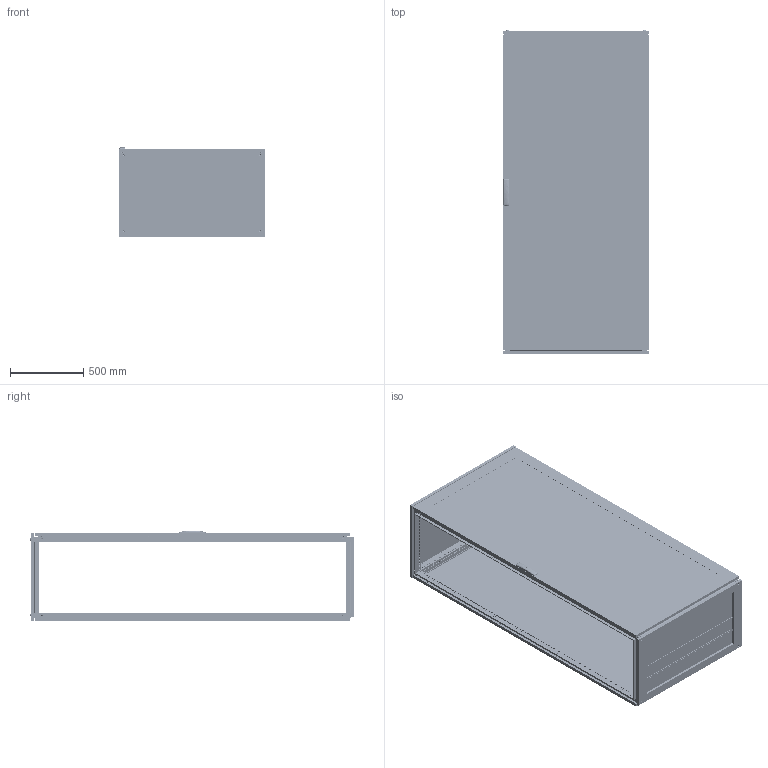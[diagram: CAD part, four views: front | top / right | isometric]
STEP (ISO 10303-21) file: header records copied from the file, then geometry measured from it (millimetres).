
FILE_DESCRIPTION (( 'STEP AP203' ), '1' );
FILE_NAME ('R5CQEN22106AX.STEP', '2025-05-07T12:12:28', ( '' ), ( '' ), 'SwSTEP 2.0', 'SolidWorks 2022', '' );
FILE_SCHEMA (( 'CONFIG_CONTROL_DESIGN' ));
Length unit declared in the file: millimetre
Products named in the file (66): RB.2680.00.01.0 simple; RB.2528.00.00.0 simple_-06; RB.2702.00.00.0 simple; RB.2456.00.00.0 simple_-02; RB.2968.00.00.0 simple; R5NKTB - Assem simple_H=2200 R5NKTB106; Glass CPTE_2200x1000; R5NKMN - Assem simple_R5NKMN22 (1000х600); RB.1957.00.00.0 simple_-16; RB.0528.00.01.0 simple_-06; 7 DIN 6799 Zinc; RB.2052.01.00.0 СБ simple_-31; RB.2172.00.00.1 simple; RB.2969.00.00.0 СБ simple; TPA.08.0084.00.00.0 simple; RB.0528.04.00.0 СБ simple; TPA.08.0139.00.01.0 simple; RB.2357.00.00.0 simple_-07; RB.2499.00.00.0 СБ simple_-26; R5NCRE-Assem simple_R5NCRE22100; M6x15 Erickson cl.4,8 Zinc; R5CQEN22106AX; AC00C446-R; 4.8x13 DIN 7981 PH Zinc_straight; M6x10 DIN 912 HX cl.8,8 Zinc_straight; RB.2686.00.00.0 simple; RB.0562.01.01.0 simple_-20; PF 5x10 KTB simple_1000x600; M12x16 ISO 7380-1 HX cl.4,8 Zinc_straight; Pressing stud FH-M6-12_M6x12mm; TPA.08.0139.00.03.0; RB.0528.04.01.0 simple; PF 7x14 CRE simple_2200x1000; RB.1633.00.02.0 simple_-02; RB.1867.01.01.0 simple_-17; Glue CPTE simple_2200x1000; RB.0562.00.00.0 СБ simple_-20; 4,0x16 F Torx Zinc (ART 88200)_thread; ATOS Traction guide ILY03.35; RB.2696.00.00.0 simple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
Assembly tree (176 placements, depth 5):
  R5CQEN22106AX
    R5NCPTE - Assem simple_R5NCPTE22100
      RB.0562.00.00.0 СБ simple_-20
        RB.0562.01.00.0 СБ simple_-20
          RB.0562.01.01.0 simple_-20
          М6х12 A5100231_straight  x9
          RB.2702.00.00.0 simple  x4
          PF 7,5x15 CPE simple_2200x1000
          Glass CPTE_2200x1000
          Glue CPTE simple_2200x1000
        Square cap 20x20 simple  x2
        M6x15 Erickson cl.4,8 Zinc  x3
        RB.0528.00.01.0 simple_-06  x2
        ATOS Traction guide ILY03.35  x4
        RB.2357.00.00.0 simple_-07
        RB.2680.00.00.0 СБ simple
          TPA.08.0139.00.01.0 simple
          RB.2680.00.01.0 simple
          RB.2680.00.02.0 simple  x2
        TPA.08.0139.00.03.0  x2
        M6 DIN 985 cl.6,0 Zinc_straight  x4
        4,0x16 F Torx Zinc (ART 88200)_thread  x2
        RB.0528.04.00.0 СБ simple  x2
          RB.0528.04.01.0 simple
          Pressing stud FH-M6-12_M6x12mm
      M6x10 DIN 912 HX cl.8,8 Zinc_straight  x8
      4.8x13 DIN 7981 PH Zinc_straight
      7 DIN 6799 Zinc simple  x4
      RB.2968.00.00.0 simple  x4
      RB.2969.00.00.0 СБ simple  x4
        RB.2969.00.01.0 simple
        Pin 4x16 DIN 7 AISI 303 (A1) simple
        M6 MGR-MKO-0625 simple_Thread
      AC00C446-R
      RB.2696.00.00.0 simple  x4
      7 DIN 6799 Zinc  x4
    R5NCRE-Assem simple_R5NCRE22100
      RB.2052.00.00.0 СБ simple_-31
        RB.2052.01.00.0 СБ simple_-31
          RB.0054.01.01.0 simple_-31
          М6х12 A5100231_straight  x4
        PF 7x14 CRE simple_2200x1000
      RB.2172.00.00.1 simple  x8
      M6x10 DIN 7500 E HX cl.5.8 Zinc_straight  x8
      M6x10 DIN 7500 M Torx cl.5.8 Zinc_straight  x8
    R5NKMN - Assem simple_R5NKMN22 (1000х600)
      RB.2528.00.00.0 simple_-06  x4
    R5NKTB - Assem simple_H=2200 R5NKTB106
      RB.2499.00.00.0 СБ simple_-26
        RB.2499.01.00.0 СБ simple_-25
          RB.1633.00.01.0 simple_-04  x2
          RB.1633.00.02.0 simple_-02  x2
          PF 5x10 KTB simple_1000x600
        RB.2457.00.00.0 СБ simple_-26
          RB.2455.00.00.0 simple_-04  x2
          RB.2456.00.00.0 simple_-02  x2
          TPA.08.0084.00.00.0 simple  x2
          TPA.08.0083.00.00.0 simple  x2
          M8x12 AC00C476 cl.8,8 Zinc_stright  x4
        RB.1957.00.00.0 simple_-15  x2
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Bounding box: 1000 x 2213.3 x 614.79 mm (x, y, z)
Volume: 23028204.5 mm3; surface area: 19466421.8 mm2
Topology: 179 solids, 195 shells, 24925 faces, 70967 edges, 46820 vertices
Faces by surface type: plane 13747, cylinder 9627, cone 714, bspline 435, torus 368, sphere 34
Entity records: 247672 total; most frequent: CARTESIAN_POINT 59416, ORIENTED_EDGE 37454, DIRECTION 35955, EDGE_CURVE 18753, VERTEX_POINT 12430, AXIS2_PLACEMENT_3D 12088, LINE 11779, VECTOR 11779
